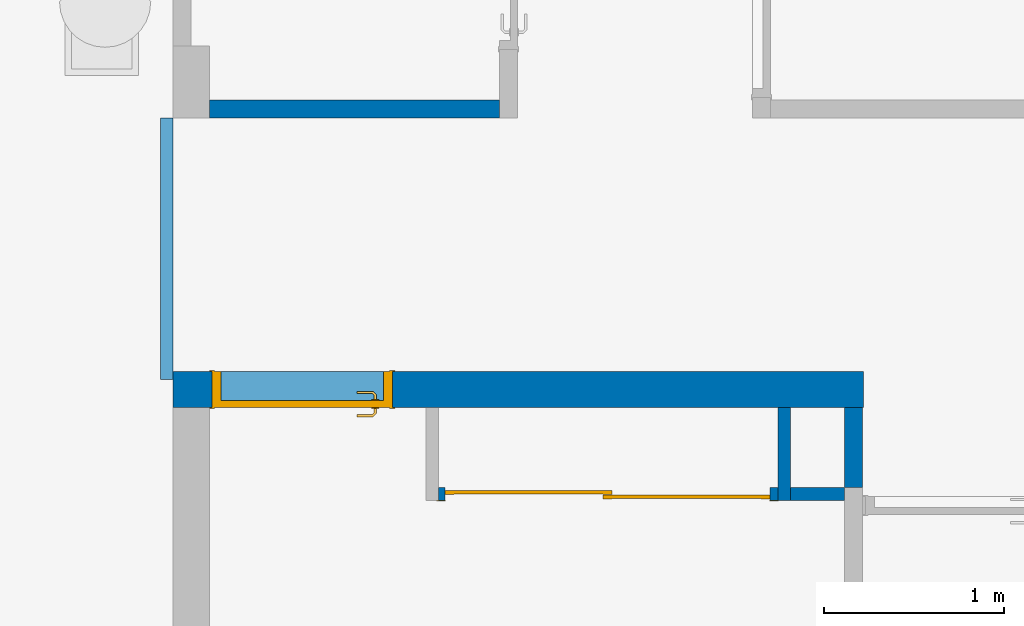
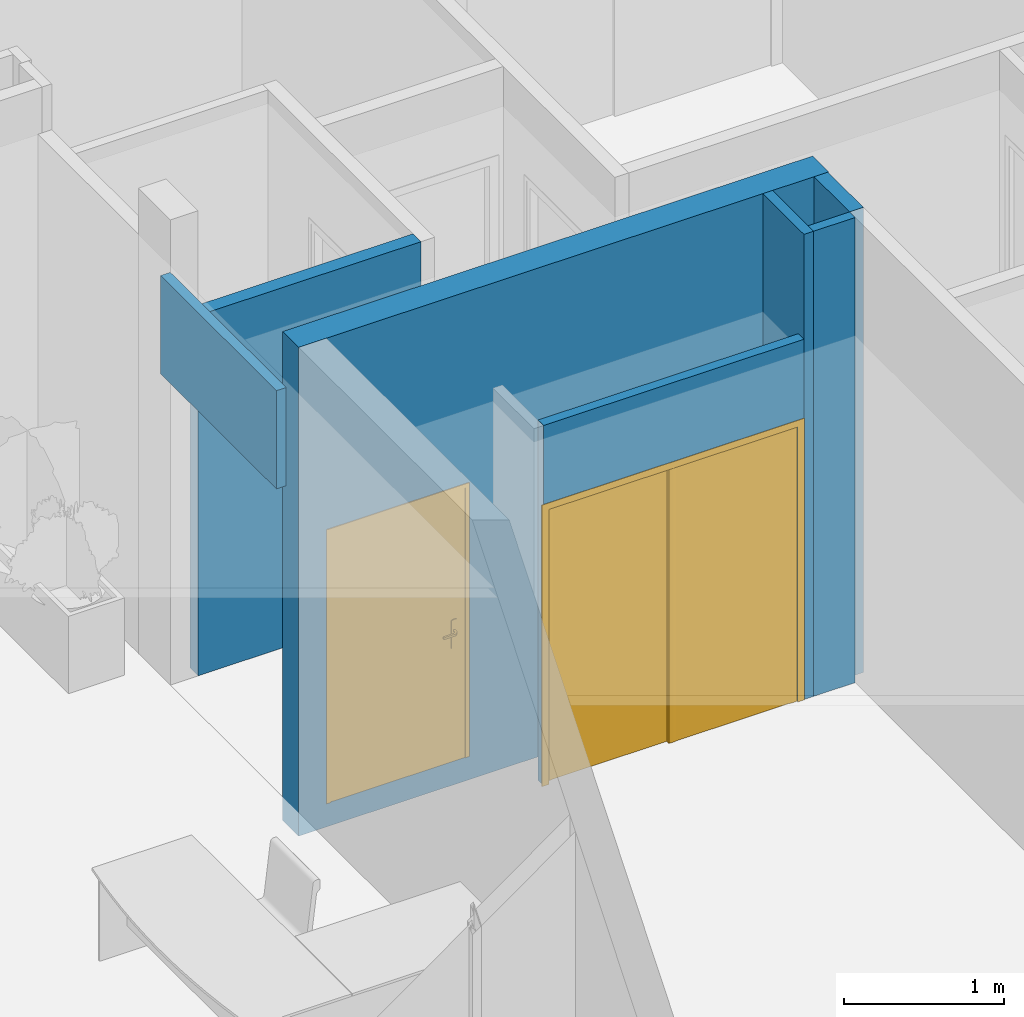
# One storey, part 14 of 32: 7 walls, 2 doors, 2 openings.
"""IFC2X3 building model written with IfcOpenShell, lengths in metres."""

from ifc_helpers import new_model, entity, si_unit, converted_unit, derived_unit, direction, frame, frame_2d, origin, origin_2d_with_axis, place, context, subcontext, project, spatial, polyline, circle_curve, parameter, trimmed, segment, composite_curve, rectangle, outline, extrude, faceted_brep, source, transform, mapped, material, material_list, layer, layer_set, layer_usage, type_object, type_shapes, element, fill, save


model = new_model("IFC2X3")

# Units and contexts
model_context = context("Model", 3, precision=1e-05, world=origin(), true_north=direction((6.12303176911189e-17, 1.0)))
plan_context = context("Plan", 3, precision=1e-05, world=origin(), true_north=direction((6.12303176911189e-17, 1.0)))
body_context = subcontext(model_context, "Body", "Model", "MODEL_VIEW")
ifc_project = project(units=[si_unit("LENGTHUNIT", "METRE"), si_unit("AREAUNIT", "SQUARE_METRE"), si_unit("VOLUMEUNIT", "CUBIC_METRE"), converted_unit("PLANEANGLEUNIT", "DEGREE", entity("IfcRatioMeasure", 0.0174532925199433), si_unit("PLANEANGLEUNIT", "RADIAN"), dimensions=[0, 0, 0, 0, 0, 0, 0]), si_unit("MASSUNIT", "GRAM", prefix="KILO"), derived_unit("MASSDENSITYUNIT", [(si_unit("MASSUNIT", "GRAM", prefix="KILO"), 1), (si_unit("LENGTHUNIT", "METRE"), -3)]), derived_unit("MOMENTOFINERTIAUNIT", [(si_unit("LENGTHUNIT", "METRE"), 4)]), si_unit("TIMEUNIT", "SECOND"), si_unit("FREQUENCYUNIT", "HERTZ"), si_unit("THERMODYNAMICTEMPERATUREUNIT", "DEGREE_CELSIUS"), derived_unit("THERMALTRANSMITTANCEUNIT", [(si_unit("MASSUNIT", "GRAM", prefix="KILO"), 1), (si_unit("THERMODYNAMICTEMPERATUREUNIT", "KELVIN"), -1), (si_unit("TIMEUNIT", "SECOND"), -3)]), derived_unit("VOLUMETRICFLOWRATEUNIT", [(si_unit("LENGTHUNIT", "METRE"), 3), (si_unit("TIMEUNIT", "SECOND"), -1)]), si_unit("ELECTRICCURRENTUNIT", "AMPERE"), si_unit("ELECTRICVOLTAGEUNIT", "VOLT"), si_unit("POWERUNIT", "WATT"), si_unit("FORCEUNIT", "NEWTON", prefix="KILO"), si_unit("ILLUMINANCEUNIT", "LUX"), si_unit("LUMINOUSFLUXUNIT", "LUMEN"), si_unit("LUMINOUSINTENSITYUNIT", "CANDELA"), derived_unit("USERDEFINED", [(si_unit("MASSUNIT", "GRAM", prefix="KILO"), -1), (si_unit("LENGTHUNIT", "METRE"), -2), (si_unit("TIMEUNIT", "SECOND"), 3), (si_unit("LUMINOUSFLUXUNIT", "LUMEN"), 1)]), derived_unit("LINEARVELOCITYUNIT", [(si_unit("LENGTHUNIT", "METRE"), 1), (si_unit("TIMEUNIT", "SECOND"), -1)]), si_unit("PRESSUREUNIT", "PASCAL"), derived_unit("USERDEFINED", [(si_unit("LENGTHUNIT", "METRE"), -2), (si_unit("MASSUNIT", "GRAM", prefix="KILO"), 1), (si_unit("TIMEUNIT", "SECOND"), -2)]), derived_unit("LINEARFORCEUNIT", [(si_unit("MASSUNIT", "GRAM", prefix="KILO"), 1), (si_unit("LENGTHUNIT", "METRE"), 1), (si_unit("TIMEUNIT", "SECOND"), -2), (si_unit("LENGTHUNIT", "METRE"), -1)]), derived_unit("PLANARFORCEUNIT", [(si_unit("MASSUNIT", "GRAM", prefix="KILO"), 1), (si_unit("LENGTHUNIT", "METRE"), 1), (si_unit("TIMEUNIT", "SECOND"), -2), (si_unit("LENGTHUNIT", "METRE"), -2)])], contexts=[model_context, plan_context])

# Site, building, storey
site_placement = place(None, origin())
site = spatial("IfcSite", under=ifc_project, at=site_placement, Name="Default", CompositionType="ELEMENT")
building_placement = place(site_placement, origin())
building = spatial("IfcBuilding", under=site, at=building_placement, CompositionType="ELEMENT")
storey_placement = place(building_placement, origin())
storey = spatial("IfcBuildingStorey", under=building, at=storey_placement, Name="0 Mairie RDC 0.00", CompositionType="ELEMENT", Elevation=-1.94916083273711e-14)

# Walls
ifc_material_1 = material(Name="Plâtre")
ifc_layer_1 = layer(ifc_material_1, 0.0125)
ifc_layer_2 = layer(ifc_material_1, 0.0125)
ifc_material_2 = material(Name="Maçonnerie - Isolant")
ifc_layer_3 = layer(ifc_material_2, 0.05)
ifc_layer_4 = layer(ifc_material_1, 0.0125)
ifc_layer_5 = layer(ifc_material_1, 0.0125)
ifc_layer_set_1 = layer_set([ifc_layer_1, ifc_layer_2, ifc_layer_3, ifc_layer_4, ifc_layer_5], Name="Mur de base:A cloison placostil 98 sèche")
ifc_layer_usage_1 = layer_usage(ifc_layer_set_1, "AXIS2", "POSITIVE", -0.05)
wall_type_1 = type_object("IfcWallType", Name="Murs : Mur de base : A cloison placostil 98 sèche", PredefinedType="STANDARD", material=ifc_layer_set_1)
wall_1_placement = place(storey_placement, frame((-4.72682796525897, -6.58378247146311, 0.0)))
element("IfcWallStandardCase", 1, at=wall_1_placement, inside=storey, type_object=wall_type_1, material=ifc_layer_usage_1, Name="Murs : Mur de base : A cloison placostil 98 sèche", ObjectType="Mur de base:A cloison placostil 98 sèche", context=body_context, shape_type="SweptSolid", body=[
    extrude(rectangle(XDim=1.60791034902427, YDim=0.0999999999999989, at=frame_2d((0.803955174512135, 0.0), x_axis=(-1.0, 0.0))), origin(), (0.0, 0.0, 1.0), 2.75),
])
ifc_layer_usage_2 = layer_usage(ifc_layer_set_1, "AXIS2", "NEGATIVE", 0.05)
wall_2_placement = place(storey_placement, frame((-1.15639222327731, -8.68175700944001, 0.0), z_axis=(0.0, 0.0, 1.0), x_axis=(0.0, 1.0, 0.0)))
element("IfcWallStandardCase", 2, at=wall_2_placement, inside=storey, type_object=wall_type_1, material=ifc_layer_usage_2, Name="Murs : Mur de base : A cloison placostil 98 sèche", ObjectType="Mur de base:A cloison placostil 98 sèche", context=body_context, shape_type="SweptSolid", body=[
    extrude(rectangle(XDim=0.443488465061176, YDim=0.1, at=frame_2d((0.221744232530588, 0.0), x_axis=(-1.0, 0.0))), origin(), (0.0, 0.0, 1.0), 3.55000000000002),
])

# Wall, opening, door
ifc_layer_6 = layer(ifc_material_1, 0.01)
ifc_layer_7 = layer(ifc_material_2, 0.05)
ifc_layer_8 = layer(ifc_material_1, 0.01)
ifc_layer_set_2 = layer_set([ifc_layer_6, ifc_layer_7, ifc_layer_8], Name="Mur de base:A cloison placostil 72 sèche")
ifc_layer_usage_3 = layer_usage(ifc_layer_set_2, "AXIS2", "POSITIVE", -0.035)
wall_type_2 = type_object("IfcWallType", Name="Murs : Mur de base : A cloison placostil 72 sèche", PredefinedType="STANDARD", material=ifc_layer_set_2)
wall_3_placement = place(storey_placement, frame((-3.45604062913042, -8.71675700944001, 0.0)))
wall_3 = element("IfcWallStandardCase", 3, at=wall_3_placement, inside=storey, type_object=wall_type_2, material=ifc_layer_usage_3, Name="Murs : Mur de base : A cloison placostil 72 sèche", ObjectType="Mur de base:A cloison placostil 72 sèche", context=body_context, shape_type="SweptSolid", body=[
    extrude(rectangle(XDim=1.87996371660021, YDim=0.0699999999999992, at=frame_2d((0.939981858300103, 0.0), x_axis=(-1.0, 0.0))), origin(), (0.0, 0.0, 1.0), 2.75),
])
opening_1_placement = place(wall_3_placement, frame((1.835, 0.0349999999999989, 0.0)))
opening_1 = element("IfcOpeningElement", 4, at=opening_1_placement, cuts=wall_3, Name="Portes : Placard coulissante - 2 panneaux : Placard coulissante - 2 panneaux 1.80:1", ObjectType="Opening", context=body_context, shape_type="SweptSolid", body=[
    extrude(rectangle(XDim=2.09999999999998, YDim=1.8, at=frame_2d((1.04999999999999, 0.9), x_axis=(1.0, 0.0))), frame((0.0, 0.0, 0.0), z_axis=(0.0, -1.0, 0.0), x_axis=(0.0, 0.0, 1.0)), (0.0, 0.0, 1.0), 0.07),
])
ifc_material_3 = material(Name="Placard - Profil")
ifc_material_4 = material(Name="Placard - Encadrement")
ifc_material_5 = material(Name="Placard - Porte")
ifc_material_list_1 = material_list([ifc_material_3, ifc_material_3, ifc_material_3, ifc_material_3, ifc_material_4, ifc_material_5, ifc_material_5])
ifc_material_list_2 = material_list([ifc_material_3, ifc_material_3, ifc_material_3, ifc_material_3, ifc_material_4, ifc_material_5, ifc_material_5])
door_style_1 = type_object("IfcDoorStyle", Name="Portes : Placard coulissante - 2 panneaux : Placard coulissante - 2 panneaux 1.80", ConstructionType="NOTDEFINED", OperationType="SLIDING_TO_RIGHT", ParameterTakesPrecedence=False, Sizeable=False, material=ifc_material_list_2)
shared_shape_1 = source(origin(), body_context, "Body", "SweptSolid", [
    extrude(outline(composite_curve([segment(polyline([(-0.0250000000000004, -0.00100000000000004), (0.0249999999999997, -0.00100000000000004)]), True, "CONTINUOUS"), segment(polyline([(0.0249999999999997, -0.00100000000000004), (0.0249999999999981, 0.00100000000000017)]), True, "CONTINUOUS"), segment(trimmed(circle_curve(frame_2d((0.0, -0.212860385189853), x_axis=(-1.0, 0.0)), 0.215316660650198), [parameter(263.332459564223)], [parameter(276.667540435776)], True, "PARAMETER"), True, "CONTINUOUS"), segment(polyline([(-0.0250000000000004, 0.00100000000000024), (-0.0250000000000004, -0.00100000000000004)]), True, "CONTINUOUS")], self_intersect=False)), frame((1.775, 0.0089999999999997, 0.0), z_axis=(0.0, 0.0, 1.0), x_axis=(-1.0, 0.0, 0.0)), (0.0, 0.0, 1.0), 2.1),
    extrude(outline(composite_curve([segment(polyline([(-0.0250000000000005, -0.00100000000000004), (0.0249999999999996, -0.00100000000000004)]), True, "CONTINUOUS"), segment(polyline([(0.0249999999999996, -0.00100000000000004), (0.0249999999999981, 0.00100000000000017)]), True, "CONTINUOUS"), segment(trimmed(circle_curve(frame_2d((0.0, -0.212860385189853), x_axis=(-1.0, 0.0)), 0.215316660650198), [parameter(263.332459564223)], [parameter(276.667540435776)], True, "PARAMETER"), True, "CONTINUOUS"), segment(polyline([(-0.0250000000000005, 0.00100000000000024), (-0.0250000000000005, -0.00100000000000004)]), True, "CONTINUOUS")], self_intersect=False)), frame((0.899999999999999, 0.00900000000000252, 0.0), z_axis=(0.0, 0.0, 1.0), x_axis=(-1.0, 0.0, 0.0)), (0.0, 0.0, 1.0), 2.1),
    extrude(outline(composite_curve([segment(polyline([(-0.0250000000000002, -0.00100000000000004), (0.0249999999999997, -0.00100000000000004)]), True, "CONTINUOUS"), segment(polyline([(0.0249999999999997, -0.00100000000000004), (0.0249999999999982, 0.00100000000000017)]), True, "CONTINUOUS"), segment(trimmed(circle_curve(frame_2d((0.0, -0.212860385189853), x_axis=(-1.0, 0.0)), 0.215316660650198), [parameter(263.332459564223)], [parameter(276.667540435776)], True, "PARAMETER"), True, "CONTINUOUS"), segment(polyline([(-0.0250000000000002, 0.00100000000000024), (-0.0250000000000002, -0.00100000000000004)]), True, "CONTINUOUS")], self_intersect=False)), frame((0.899999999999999, 0.0340000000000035, 0.0), z_axis=(0.0, 0.0, 1.0), x_axis=(-1.0, 0.0, 0.0)), (0.0, 0.0, 1.0), 2.1),
    extrude(outline(composite_curve([segment(polyline([(-0.0250000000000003, -0.00100000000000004), (0.0249999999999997, -0.00100000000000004)]), True, "CONTINUOUS"), segment(polyline([(0.0249999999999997, -0.00100000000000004), (0.0249999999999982, 0.00100000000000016)]), True, "CONTINUOUS"), segment(trimmed(circle_curve(frame_2d((0.0, -0.212860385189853), x_axis=(-1.0, 0.0)), 0.215316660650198), [parameter(263.332459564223)], [parameter(276.667540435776)], True, "PARAMETER"), True, "CONTINUOUS"), segment(polyline([(-0.0250000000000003, 0.00100000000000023), (-0.0250000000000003, -0.00100000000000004)]), True, "CONTINUOUS")], self_intersect=False)), frame((0.0249999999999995, 0.0340000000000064, 0.0), z_axis=(0.0, 0.0, 1.0), x_axis=(-1.0, 0.0, 0.0)), (0.0, 0.0, 1.0), 2.1),
    extrude(outline(polyline([(-1.06149999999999, -0.948), (1.08649999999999, -0.948), (1.08649999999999, 0.948), (-1.06149999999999, 0.948), (-1.06149999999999, 0.898), (1.03649999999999, 0.898), (1.03649999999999, -0.898), (-1.06149999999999, -0.898), (-1.06149999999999, -0.948)])), frame((0.9, -0.00300000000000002, 1.06149999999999), z_axis=(0.0, 1.0, 0.0), x_axis=(0.0, 0.0, 1.0)), (0.0, 0.0, 1.0), 0.00300000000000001),
    extrude(rectangle(XDim=0.020000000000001, YDim=0.925000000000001, at=frame_2d((0.0, -8.32667268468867e-17), x_axis=(1.0, 0.0))), frame((1.3375, 0.0200000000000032, 0.0), z_axis=(0.0, 0.0, 1.0), x_axis=(0.0, 1.0, 0.0)), (0.0, 0.0, 1.0), 2.1),
    extrude(rectangle(XDim=0.02, YDim=0.924999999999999, at=origin_2d_with_axis()), frame((0.462499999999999, 0.0450000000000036, 0.0), z_axis=(0.0, 0.0, 1.0), x_axis=(0.0, 1.0, 0.0)), (0.0, 0.0, 1.0), 2.1),
])
type_shapes(door_style_1, [shared_shape_1])
door_1_placement = place(opening_1_placement, frame((-1.8, -0.0699999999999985, 0.0)))
door_1 = element("IfcDoor", 5, at=door_1_placement, inside=storey, type_object=door_style_1, material=ifc_material_list_1, Name="Portes : Placard coulissante - 2 panneaux : Placard coulissante - 2 panneaux 1.80", ObjectType="Placard coulissante - 2 panneaux:Placard coulissante - 2 panneaux 1.80", OverallHeight=2.09999999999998, OverallWidth=1.8, context=body_context, shape_type="MappedRepresentation", body=[
    mapped(shared_shape_1, transform((0.0, 0.0, 0.0), scale=1.0)),
])
fill(opening_1, door_1)

# Walls
ifc_layer_usage_4 = layer_usage(ifc_layer_set_2, "AXIS2", "NEGATIVE", 0.035)
wall_4_placement = place(storey_placement, frame((-1.54107691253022, -8.75175700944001, 0.0), z_axis=(0.0, 0.0, 1.0), x_axis=(0.0, 1.0, 0.0)))
element("IfcWallStandardCase", 6, at=wall_4_placement, inside=storey, type_object=wall_type_2, material=ifc_layer_usage_4, Name="Murs : Mur de base : A cloison placostil 72 sèche", ObjectType="Mur de base:A cloison placostil 72 sèche", context=body_context, shape_type="SweptSolid", body=[
    extrude(rectangle(XDim=0.513488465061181, YDim=0.0699999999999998, at=frame_2d((0.25674423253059, 0.0), x_axis=(-1.0, 0.0))), origin(), (0.0, 0.0, 1.0), 3.55000000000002),
])
ifc_layer_usage_5 = layer_usage(ifc_layer_set_2, "AXIS2", "POSITIVE", -0.035)
wall_5_placement = place(storey_placement, frame((-4.9624967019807, -8.08278670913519, 2.4), z_axis=(0.0, 0.0, 1.0), x_axis=(0.0, 1.0, 0.0)))
element("IfcWallStandardCase", 7, at=wall_5_placement, inside=storey, type_object=wall_type_2, material=ifc_layer_usage_5, Name="Murs : Mur de base : A cloison placostil 72 sèche", ObjectType="Mur de base:A cloison placostil 72 sèche", context=body_context, shape_type="SweptSolid", body=[
    extrude(rectangle(XDim=1.44951816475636, YDim=0.0699999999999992, at=frame_2d((0.724759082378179, 0.0), x_axis=(-1.0, 0.0))), origin(), (0.0, 0.0, 1.0), 0.75),
])
ifc_layer_usage_6 = layer_usage(ifc_layer_set_2, "AXIS2", "POSITIVE", -0.035)
wall_6_placement = place(storey_placement, frame((-1.50607691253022, -8.71675700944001, 0.0)))
element("IfcWallStandardCase", 8, at=wall_6_placement, inside=storey, type_object=wall_type_2, material=ifc_layer_usage_6, Name="Murs : Mur de base : A cloison placostil 72 sèche", ObjectType="Mur de base:A cloison placostil 72 sèche", context=body_context, shape_type="SweptSolid", body=[
    extrude(rectangle(XDim=0.29968468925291, YDim=0.0699999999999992, at=frame_2d((0.149842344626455, 0.0), x_axis=(-1.0, 0.0))), origin(), (0.0, 0.0, 1.0), 3.55000000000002),
])

# Wall, opening, door
ifc_material_6 = material(Name="Béton, coulé sur place")
ifc_layer_9 = layer(ifc_material_6, 0.2)
ifc_layer_set_3 = layer_set([ifc_layer_9], Name="Mur de base:A Ext. Voile BA 20")
ifc_layer_usage_7 = layer_usage(ifc_layer_set_3, "AXIS2", "NEGATIVE", 0.1)
wall_type_3 = type_object("IfcWallType", Name="Murs : Mur de base : A Ext. Voile BA 20", PredefinedType="STANDARD", material=ifc_layer_set_3)
wall_7_placement = place(storey_placement, frame((-4.9274967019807, -8.13826854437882, -0.18)))
wall_7 = element("IfcWallStandardCase", 9, at=wall_7_placement, inside=storey, type_object=wall_type_3, material=ifc_layer_usage_7, Name="Murs : Mur de base : A Ext. Voile BA 20", ObjectType="Mur de base:A Ext. Voile BA 20", context=body_context, shape_type="SweptSolid", body=[
    extrude(rectangle(XDim=3.82529143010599, YDim=0.2, at=frame_2d((1.91264571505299, 8.32667268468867e-17), x_axis=(-1.0, 0.0))), origin(), (0.0, 0.0, 1.0), 3.73),
])
opening_2_placement = place(wall_7_placement, frame((1.21499999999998, 0.0999999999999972, 0.179999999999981)))
opening_2 = element("IfcOpeningElement", 10, at=opening_2_placement, cuts=wall_7, Name="Portes : Int. Simple : PP (0.89m x 2.04m):1", ObjectType="Opening", context=body_context, shape_type="SweptSolid", body=[
    extrude(rectangle(XDim=2.075, YDim=1.0, at=frame_2d((1.0375, 0.5), x_axis=(1.0, 0.0))), frame((0.0, 0.0, 0.0), z_axis=(0.0, -1.0, 0.0), x_axis=(0.0, 0.0, 1.0)), (0.0, 0.0, 1.0), 0.2),
])
ifc_material_7 = material(Name="Finition Peinture - Blanc satiné")
ifc_material_8 = material(Name="Bois - Cadre de porte")
ifc_material_list_3 = material_list([ifc_material_7, ifc_material_8])
ifc_material_9 = material(Name="Bois - Panneau de porte")
ifc_material_list_4 = material_list([ifc_material_9, ifc_material_7, ifc_material_8])
door_style_2 = type_object("IfcDoorStyle", Name="Portes : Int. Simple : PP (0.89m x 2.04m)", ConstructionType="NOTDEFINED", OperationType="NOTDEFINED", ParameterTakesPrecedence=False, Sizeable=False, material=ifc_material_list_4)
shared_shape_2 = source(origin(), body_context, "Body", "SolidModel", [
    extrude(outline(composite_curve([segment(polyline([(-0.104999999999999, -0.02), (0.104999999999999, -0.0199999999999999)]), True, "CONTINUOUS"), segment(trimmed(circle_curve(frame_2d((0.0703589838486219, 0.0), x_axis=(0.0, 1.0)), 0.0399999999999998), [parameter(240.000000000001)], [parameter(300.0)], True, "PARAMETER"), True, "CONTINUOUS"), segment(polyline([(0.104999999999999, 0.0199999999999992), (-0.105, 0.0200000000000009)]), True, "CONTINUOUS"), segment(trimmed(circle_curve(frame_2d((-0.0703589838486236, 0.0), x_axis=(0.0, 1.0)), 0.0399999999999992), [parameter(59.9999999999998)], [parameter(120.0)], True, "PARAMETER"), True, "CONTINUOUS")], self_intersect=False)), frame((0.975000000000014, 0.0, 0.975000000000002), z_axis=(0.0, -1.0, 0.0), x_axis=(0.0, 0.0, 1.0)), (0.0, 0.0, 1.0), 0.00499999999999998),
    extrude(outline(composite_curve([segment(polyline([(-0.105, -0.02), (0.105, -0.02)]), True, "CONTINUOUS"), segment(trimmed(circle_curve(frame_2d((0.0703589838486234, 0.0), x_axis=(0.0, -1.0)), 0.0399999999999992), [parameter(59.9999999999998)], [parameter(120.0)], True, "PARAMETER"), True, "CONTINUOUS"), segment(polyline([(0.104999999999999, 0.0200000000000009), (-0.105, 0.0199999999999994)]), True, "CONTINUOUS"), segment(trimmed(circle_curve(frame_2d((-0.0703589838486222, 0.0), x_axis=(0.0, -1.0)), 0.0399999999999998), [parameter(240.0)], [parameter(300.0)], True, "PARAMETER"), True, "CONTINUOUS")], self_intersect=False)), frame((0.975000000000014, 0.0449999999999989, 0.975000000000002), z_axis=(0.0, -1.0, 0.0), x_axis=(0.0, 0.0, -1.0)), (0.0, 0.0, 1.0), 0.00500000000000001),
    extrude(rectangle(XDim=0.93, YDim=0.04, at=frame_2d((0.0, -1.38777878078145e-17), x_axis=(1.0, 0.0))), frame((0.570000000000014, 0.02, 0.0), z_axis=(0.0, 0.0, 1.0), x_axis=(-1.0, 0.0, 0.0)), (0.0, 0.0, 1.0), 2.04),
    extrude(outline(polyline([(0.484999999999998, -1.03750000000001), (0.514999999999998, -1.03750000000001), (0.514999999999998, 1.0525), (-0.514999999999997, 1.0525), (-0.514999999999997, -1.0375), (-0.484999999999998, -1.03750000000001), (-0.484999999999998, 1.02250000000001), (0.484999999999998, 1.02250000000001), (0.484999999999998, -1.03750000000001)])), frame((0.570000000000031, 0.205000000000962, 1.03750000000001), z_axis=(0.0, -1.0, 0.0), x_axis=(1.0, 0.0, 0.0)), (0.0, 0.0, 1.0), 0.00499999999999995),
    extrude(outline(polyline([(0.484999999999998, -1.03750000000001), (0.514999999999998, -1.03750000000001), (0.514999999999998, 1.0525), (-0.514999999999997, 1.0525), (-0.514999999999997, -1.0375), (-0.484999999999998, -1.03750000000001), (-0.484999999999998, 1.02250000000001), (0.484999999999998, 1.02250000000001), (0.484999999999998, -1.03750000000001)])), frame((0.570000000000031, 0.0, 1.03750000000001), z_axis=(0.0, -1.0, 0.0), x_axis=(1.0, 0.0, 0.0)), (0.0, 0.0, 1.0), 0.00500000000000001),
    faceted_brep([(0.972974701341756, -0.00500000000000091, 1.00778044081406), (0.977025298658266, -0.00500000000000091, 1.00778044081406), (0.981000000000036, -0.00500000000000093, 1.00699999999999), (0.981000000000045, -0.00500000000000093, 0.992999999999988), (0.977025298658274, -0.00500000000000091, 0.99221955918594), (0.972974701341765, -0.00500000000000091, 0.992219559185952), (0.968999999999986, -0.00500000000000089, 0.993000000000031), (0.968999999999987, -0.00500000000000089, 1.007), (0.977025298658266, -0.0310045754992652, 1.00778044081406), (0.981000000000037, -0.0326509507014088, 1.007), (0.972974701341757, -0.0293267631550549, 1.00778044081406), (0.959298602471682, -0.0430028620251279, 1.00778044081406), (0.960976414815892, -0.0470534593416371, 1.00778044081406), (0.968999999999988, -0.0276803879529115, 1.007), (0.968999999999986, -0.0276803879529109, 0.993000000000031), (0.972974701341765, -0.0293267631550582, 0.992219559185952), (0.977025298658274, -0.0310045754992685, 0.99221955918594), (0.960976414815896, -0.0470534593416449, 0.99221955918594), (0.959298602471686, -0.0430028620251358, 0.992219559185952), (0.981000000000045, -0.0326509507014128, 0.992999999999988), (0.962622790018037, -0.051028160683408, 1.007), (0.957652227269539, -0.0390281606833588, 1.007), (0.957652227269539, -0.0390281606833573, 0.993000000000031), (0.96262279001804, -0.0510281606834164, 0.992999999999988), (0.874981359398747, -0.0510281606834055, 1.007), (0.874981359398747, -0.0470534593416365, 1.00778044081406), (0.874981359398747, -0.0430028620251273, 1.00778044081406), (0.874981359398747, -0.0390281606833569, 1.00699999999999), (0.874981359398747, -0.0390281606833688, 0.993000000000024), (0.874981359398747, -0.0430028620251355, 0.992219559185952), (0.874981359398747, -0.0470534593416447, 0.99221955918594), (0.874981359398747, -0.0510281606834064, 0.992999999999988), (0.917139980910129, -0.045028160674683, 1.0078786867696), (0.922692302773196, -0.051028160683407, 1.007), (0.916316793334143, -0.039028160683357, 1.007), (0.916316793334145, -0.0390281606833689, 0.993000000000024), (0.917139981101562, -0.0450281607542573, 0.992121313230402), (0.922692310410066, -0.0510281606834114, 0.992999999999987)], [[[0, 1, 2, 3, 4, 5, 6, 7]], [[2, 1, 8, 9]], [[1, 0, 10, 11, 12, 8]], [[0, 7, 13, 10]], [[14, 13, 7, 6]], [[5, 15, 14, 6]], [[5, 4, 16, 17, 18, 15]], [[3, 19, 16, 4]], [[9, 19, 3, 2]], [[9, 8, 12, 20]], [[10, 13, 21, 11]], [[22, 21, 13, 14]], [[14, 15, 18, 22]], [[16, 19, 23, 17]], [[20, 23, 19, 9]], [[24, 25, 26, 27, 28, 29, 30, 31]], [[32, 25, 33]], [[33, 25, 24]], [[33, 20, 12]], [[11, 34, 32]], [[34, 11, 21]], [[27, 26, 34]], [[32, 26, 25]], [[32, 34, 26]], [[32, 33, 12]], [[11, 32, 12]], [[21, 22, 35, 28, 27, 34]], [[36, 29, 35]], [[30, 36, 37]], [[18, 35, 22]], [[29, 28, 35]], [[30, 37, 31]], [[37, 17, 23]], [[36, 17, 37]], [[36, 18, 17]], [[36, 35, 18]], [[29, 36, 30]], [[23, 20, 33, 24, 31, 37]]]),
    faceted_brep([(0.972974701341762, 0.0449999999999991, 0.992219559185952), (0.977025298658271, 0.0449999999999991, 0.99221955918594), (0.981000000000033, 0.044999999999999, 0.992999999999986), (0.981000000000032, 0.044999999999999, 1.007), (0.977025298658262, 0.0449999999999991, 1.00778044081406), (0.972974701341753, 0.0449999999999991, 1.00778044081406), (0.968999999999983, 0.0449999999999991, 1.007), (0.968999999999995, 0.0449999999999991, 0.993000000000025), (0.968999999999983, 0.067485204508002, 1.007), (0.968999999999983, 0.0674852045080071, 0.993000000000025), (0.972974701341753, 0.0691315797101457, 1.00778044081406), (0.977025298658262, 0.070809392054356, 1.00778044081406), (0.960838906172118, 0.0869957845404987, 1.00778044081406), (0.959161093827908, 0.0829451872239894, 1.00778044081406), (0.981000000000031, 0.0724557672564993, 1.007), (0.981000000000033, 0.0724557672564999, 0.992999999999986), (0.977025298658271, 0.0708093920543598, 0.99221955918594), (0.972974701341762, 0.0691315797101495, 0.992219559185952), (0.959161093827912, 0.0829451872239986, 0.992219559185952), (0.960838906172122, 0.0869957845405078, 0.99221955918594), (0.957514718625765, 0.0789704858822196, 1.007), (0.957514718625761, 0.0789704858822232, 0.993000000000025), (0.962485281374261, 0.0909704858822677, 1.007), (0.962485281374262, 0.0909704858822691, 0.992999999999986), (0.874954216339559, 0.0829451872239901, 1.00778044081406), (0.874954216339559, 0.0869957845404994, 1.00778044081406), (0.874954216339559, 0.0909704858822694, 1.007), (0.874954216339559, 0.0909704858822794, 0.992999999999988), (0.874954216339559, 0.086995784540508, 0.99221955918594), (0.874954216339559, 0.0829451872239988, 0.992219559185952), (0.874954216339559, 0.0789704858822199, 0.993000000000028), (0.874954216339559, 0.0789704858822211, 1.007), (0.916234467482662, 0.0789704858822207, 1.007), (0.916234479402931, 0.0789704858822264, 0.993000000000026), (0.917057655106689, 0.0849704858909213, 1.0078786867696), (0.922554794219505, 0.0909704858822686, 1.007), (0.922554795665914, 0.0909704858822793, 0.992999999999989), (0.917057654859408, 0.0849704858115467, 0.992121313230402)], [[[0, 1, 2, 3, 4, 5, 6, 7]], [[8, 9, 7, 6]], [[5, 10, 8, 6]], [[5, 4, 11, 12, 13, 10]], [[3, 14, 11, 4]], [[14, 3, 2, 15]], [[2, 1, 16, 15]], [[1, 0, 17, 18, 19, 16]], [[0, 7, 9, 17]], [[20, 21, 9, 8]], [[8, 10, 13, 20]], [[14, 22, 12, 11]], [[23, 22, 14, 15]], [[15, 16, 19, 23]], [[17, 9, 21, 18]], [[24, 25, 26, 27, 28, 29, 30, 31]], [[21, 20, 32, 31, 30, 33]], [[34, 24, 32]], [[25, 34, 35]], [[13, 32, 20]], [[24, 31, 32]], [[25, 35, 26]], [[35, 12, 22]], [[34, 12, 35]], [[34, 13, 12]], [[34, 32, 13]], [[24, 34, 25]], [[22, 23, 36, 27, 26, 35]], [[37, 28, 36]], [[36, 28, 27]], [[36, 23, 19]], [[18, 33, 37]], [[33, 18, 21]], [[30, 29, 33]], [[37, 29, 28]], [[37, 33, 29]], [[37, 36, 19]], [[18, 37, 19]]]),
    faceted_brep([(1.07000000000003, 0.0, 0.0), (1.03500000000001, 0.0, 0.0), (1.03500000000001, 0.040000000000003, 0.0), (1.02000000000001, 0.040000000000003, 0.0), (1.02000000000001, 0.200000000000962, 0.0), (1.07000000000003, 0.200000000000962, 0.0), (1.07000000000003, 0.200000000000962, 2.07500000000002), (1.07000000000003, 0.0, 2.07500000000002), (1.02000000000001, 0.200000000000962, 2.025), (0.120000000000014, 0.200000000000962, 2.025), (0.120000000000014, 0.200000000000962, 0.0), (0.0699999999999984, 0.200000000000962, 0.0), (0.0699999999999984, 0.200000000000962, 2.07500000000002), (1.02000000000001, 0.040000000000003, 2.025), (1.03500000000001, 0.040000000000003, 2.04), (0.105000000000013, 0.040000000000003, 2.04), (0.105000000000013, 0.040000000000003, 0.0), (0.120000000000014, 0.040000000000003, 0.0), (0.120000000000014, 0.040000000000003, 2.025), (1.03500000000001, 0.0, 2.04), (0.0699999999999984, 0.0, 2.07500000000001), (0.0699999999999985, 0.0, 0.0), (0.105000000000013, 0.0, 0.0), (0.105000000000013, 0.0, 2.04)], [[[0, 1, 2, 3, 4, 5]], [[5, 6, 7, 0]], [[4, 8, 9, 10, 11, 12, 6, 5]], [[3, 13, 8, 4]], [[2, 14, 15, 16, 17, 18, 13, 3]], [[1, 19, 14, 2]], [[0, 7, 20, 21, 22, 23, 19, 1]], [[12, 11, 21, 20]], [[21, 11, 10, 17, 16, 22]], [[18, 17, 10, 9]], [[23, 22, 16, 15]], [[6, 12, 20, 7]], [[13, 18, 9, 8]], [[19, 23, 15, 14]]]),
])
type_shapes(door_style_2, [shared_shape_2])
door_2_placement = place(opening_2_placement, frame((-1.07000000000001, -0.199999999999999, 0.0)))
door_2 = element("IfcDoor", 11, at=door_2_placement, inside=storey, type_object=door_style_2, material=ifc_material_list_3, Name="Portes : Int. Simple : PP (0.89m x 2.04m)", ObjectType="Int. Simple:PP (0.89m x 2.04m)", OverallHeight=2.075, OverallWidth=1.0, context=body_context, shape_type="MappedRepresentation", body=[
    mapped(shared_shape_2, transform((0.0, 0.0, 0.0), scale=1.0)),
])
fill(opening_2, door_2)

save(model, "model.ifc")
